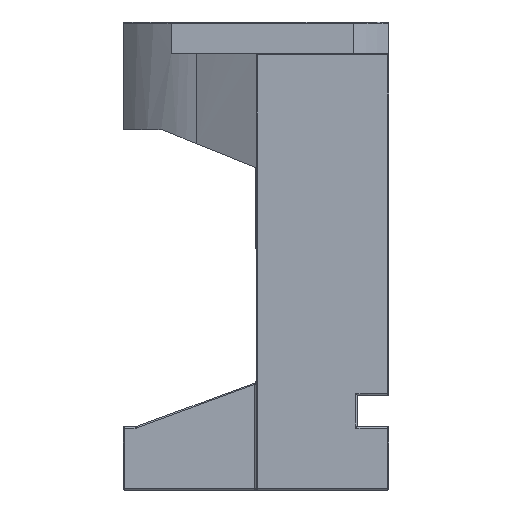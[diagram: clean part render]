
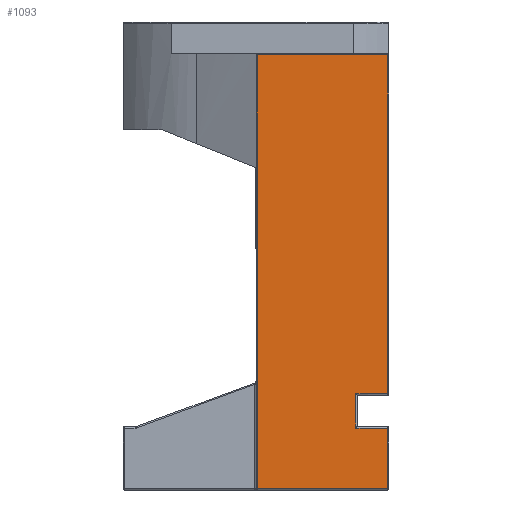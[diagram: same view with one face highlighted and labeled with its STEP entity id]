
A CAD part, left-side view. The second image highlights one B-rep face of the part: STEP entity #1093.
In plain terms, the highlighted planar face has unit normal (-1, 0, 0).
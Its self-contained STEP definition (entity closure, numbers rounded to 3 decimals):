
#38 = EDGE_CURVE ( 'NONE', #4811, #5684, #4389, .T. ) ;
#213 = DIRECTION ( 'NONE',  ( 0., 0., 1. ) ) ;
#293 = FACE_OUTER_BOUND ( 'NONE', #1335, .T. ) ;
#526 = LINE ( 'NONE', #2547, #2825 ) ;
#584 = VERTEX_POINT ( 'NONE', #2618 ) ;
#626 = VECTOR ( 'NONE', #1344, 1000. ) ;
#671 = ORIENTED_EDGE ( 'NONE', *, *, #5808, .T. ) ;
#816 = ORIENTED_EDGE ( 'NONE', *, *, #4549, .T. ) ;
#908 = LINE ( 'NONE', #5330, #3212 ) ;
#964 = ORIENTED_EDGE ( 'NONE', *, *, #1435, .T. ) ;
#968 = CARTESIAN_POINT ( 'NONE',  ( -32.5, 0.8, 63.8 ) ) ;
#1093 = ADVANCED_FACE ( 'NONE', ( #293 ), #2887, .T. ) ;
#1147 = AXIS2_PLACEMENT_3D ( 'NONE', #4215, #2646, #2737 ) ;
#1335 = EDGE_LOOP ( 'NONE', ( #2977, #671, #1904, #4338, #816, #4482, #964, #2185 ) ) ;
#1336 = VERTEX_POINT ( 'NONE', #2694 ) ;
#1344 = DIRECTION ( 'NONE',  ( 0., -1., 0. ) ) ;
#1435 = EDGE_CURVE ( 'NONE', #5684, #2273, #4373, .T. ) ;
#1451 = CARTESIAN_POINT ( 'NONE',  ( -32.5, -20., -4.8 ) ) ;
#1535 = CARTESIAN_POINT ( 'NONE',  ( -32.5, -20., 10.2 ) ) ;
#1592 = DIRECTION ( 'NONE',  ( 0., -1., 0. ) ) ;
#1877 = EDGE_CURVE ( 'NONE', #5930, #1336, #4300, .T. ) ;
#1904 = ORIENTED_EDGE ( 'NONE', *, *, #1877, .T. ) ;
#1942 = VECTOR ( 'NONE', #1592, 1000. ) ;
#2015 = CARTESIAN_POINT ( 'NONE',  ( -32.5, -19.8, 4.8 ) ) ;
#2131 = CARTESIAN_POINT ( 'NONE',  ( -32.5, -22., 4.8 ) ) ;
#2139 = CARTESIAN_POINT ( 'NONE',  ( -32.5, 0.8, -4.8 ) ) ;
#2185 = ORIENTED_EDGE ( 'NONE', *, *, #3176, .T. ) ;
#2239 = DIRECTION ( 'NONE',  ( 0., 1., 0. ) ) ;
#2262 = DIRECTION ( 'NONE',  ( 0., 0., 1. ) ) ;
#2273 = VERTEX_POINT ( 'NONE', #3515 ) ;
#2445 = LINE ( 'NONE', #5256, #3516 ) ;
#2547 = CARTESIAN_POINT ( 'NONE',  ( -32.5, -22., 63.8 ) ) ;
#2618 = CARTESIAN_POINT ( 'NONE',  ( -32.5, -19.8, 63.8 ) ) ;
#2646 = DIRECTION ( 'NONE',  ( -1., 0., 0. ) ) ;
#2666 = VERTEX_POINT ( 'NONE', #2015 ) ;
#2694 = CARTESIAN_POINT ( 'NONE',  ( -32.5, -19.8, -4.8 ) ) ;
#2728 = DIRECTION ( 'NONE',  ( 0., 0., 1. ) ) ;
#2733 = CARTESIAN_POINT ( 'NONE',  ( -32.5, -14.8, 10. ) ) ;
#2737 = DIRECTION ( 'NONE',  ( 0., 1., 0. ) ) ;
#2817 = EDGE_CURVE ( 'NONE', #1336, #2666, #4424, .T. ) ;
#2825 = VECTOR ( 'NONE', #2239, 1000. ) ;
#2887 = PLANE ( 'NONE',  #1147 ) ;
#2977 = ORIENTED_EDGE ( 'NONE', *, *, #4978, .T. ) ;
#3070 = VECTOR ( 'NONE', #213, 1000. ) ;
#3163 = DIRECTION ( 'NONE',  ( 0., 1., 0. ) ) ;
#3176 = EDGE_CURVE ( 'NONE', #2273, #584, #908, .T. ) ;
#3189 = LINE ( 'NONE', #2131, #5640 ) ;
#3212 = VECTOR ( 'NONE', #2262, 1000. ) ;
#3515 = CARTESIAN_POINT ( 'NONE',  ( -32.5, -19.8, 10.2 ) ) ;
#3516 = VECTOR ( 'NONE', #3865, 1000. ) ;
#3865 = DIRECTION ( 'NONE',  ( 0., 0., -1. ) ) ;
#3901 = VERTEX_POINT ( 'NONE', #968 ) ;
#4215 = CARTESIAN_POINT ( 'NONE',  ( -32.5, -22., 64. ) ) ;
#4300 = LINE ( 'NONE', #1451, #626 ) ;
#4338 = ORIENTED_EDGE ( 'NONE', *, *, #2817, .T. ) ;
#4373 = LINE ( 'NONE', #1535, #1942 ) ;
#4389 = LINE ( 'NONE', #2733, #5336 ) ;
#4424 = LINE ( 'NONE', #4751, #3070 ) ;
#4482 = ORIENTED_EDGE ( 'NONE', *, *, #38, .T. ) ;
#4549 = EDGE_CURVE ( 'NONE', #2666, #4811, #3189, .T. ) ;
#4751 = CARTESIAN_POINT ( 'NONE',  ( -32.5, -19.8, 64. ) ) ;
#4811 = VERTEX_POINT ( 'NONE', #5136 ) ;
#4978 = EDGE_CURVE ( 'NONE', #584, #3901, #526, .T. ) ;
#5136 = CARTESIAN_POINT ( 'NONE',  ( -32.5, -14.8, 4.8 ) ) ;
#5256 = CARTESIAN_POINT ( 'NONE',  ( -32.5, 0.8, -5. ) ) ;
#5330 = CARTESIAN_POINT ( 'NONE',  ( -32.5, -19.8, 64. ) ) ;
#5336 = VECTOR ( 'NONE', #2728, 1000. ) ;
#5395 = CARTESIAN_POINT ( 'NONE',  ( -32.5, -14.8, 10.2 ) ) ;
#5640 = VECTOR ( 'NONE', #3163, 1000. ) ;
#5684 = VERTEX_POINT ( 'NONE', #5395 ) ;
#5808 = EDGE_CURVE ( 'NONE', #3901, #5930, #2445, .T. ) ;
#5930 = VERTEX_POINT ( 'NONE', #2139 ) ;
